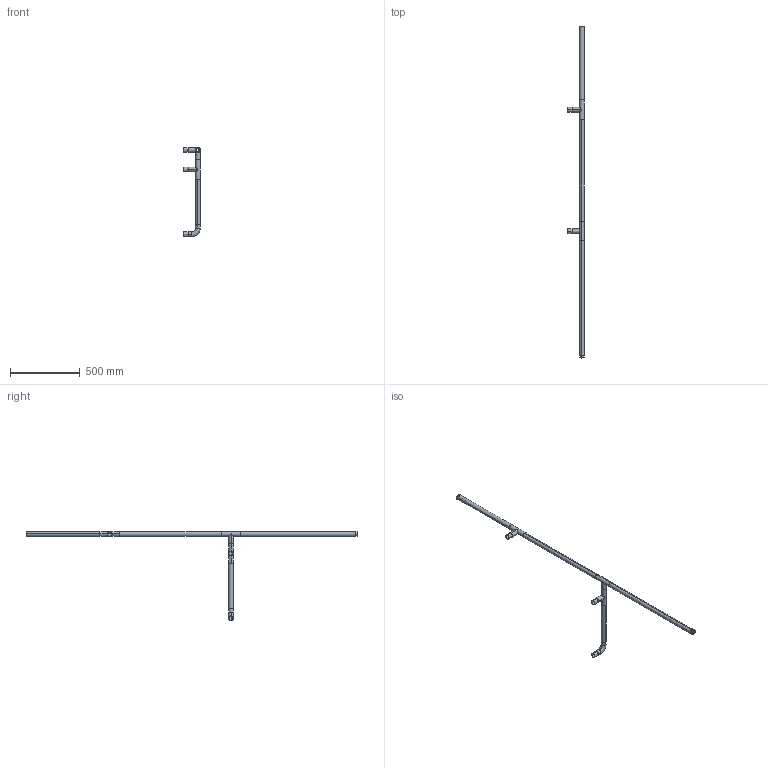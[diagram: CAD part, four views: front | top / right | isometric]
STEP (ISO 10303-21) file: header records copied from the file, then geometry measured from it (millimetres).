
FILE_DESCRIPTION (( 'STEP AP203' ), '1' );
FILE_NAME ('INFTCB2380640.STEP', '2026-03-03T08:04:30', ( '' ), ( '' ), 'SwSTEP 2.0', 'SolidWorks 2025', '' );
FILE_SCHEMA (( 'CONFIG_CONTROL_DESIGN' ));
Length unit declared in the file: millimetre
Products named in the file (11): INFTU_825; INFAPP_20; INFFIX; INFFIX_Passante; INFTU_730; INFRAC; INFAPP_100 PASSANTE; INFTU_525; INFTU_325; INFRAT; INFTCB2380640
Assembly tree (13 placements, depth 2):
  INFTCB2380640
    INFRAT  x3
    INFTU_730
    INFTU_825
    INFFIX_Passante  x2
    INFAPP_20
    INFAPP_100 PASSANTE
    INFTU_325
    INFTU_525
    INFFIX
    INFRAC
Bounding box: 124.99 x 2380 x 642.49 mm (x, y, z)
Volume: 546594.6 mm3; surface area: 708080.8 mm2
Topology: 13 solids, 13 shells, 124 faces, 300 edges, 200 vertices
Faces by surface type: cylinder 84, plane 36, torus 4
Entity records: 4299 total; most frequent: CARTESIAN_POINT 712, DIRECTION 554, ORIENTED_EDGE 444, AXIS2_PLACEMENT_3D 238, EDGE_CURVE 222, VERTEX_POINT 148, CIRCLE 128, EDGE_LOOP 124
